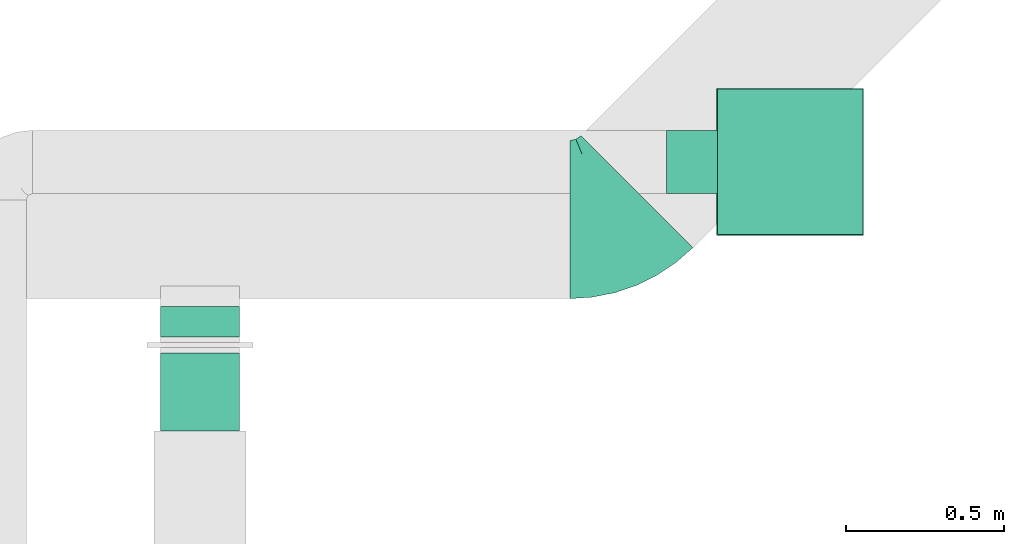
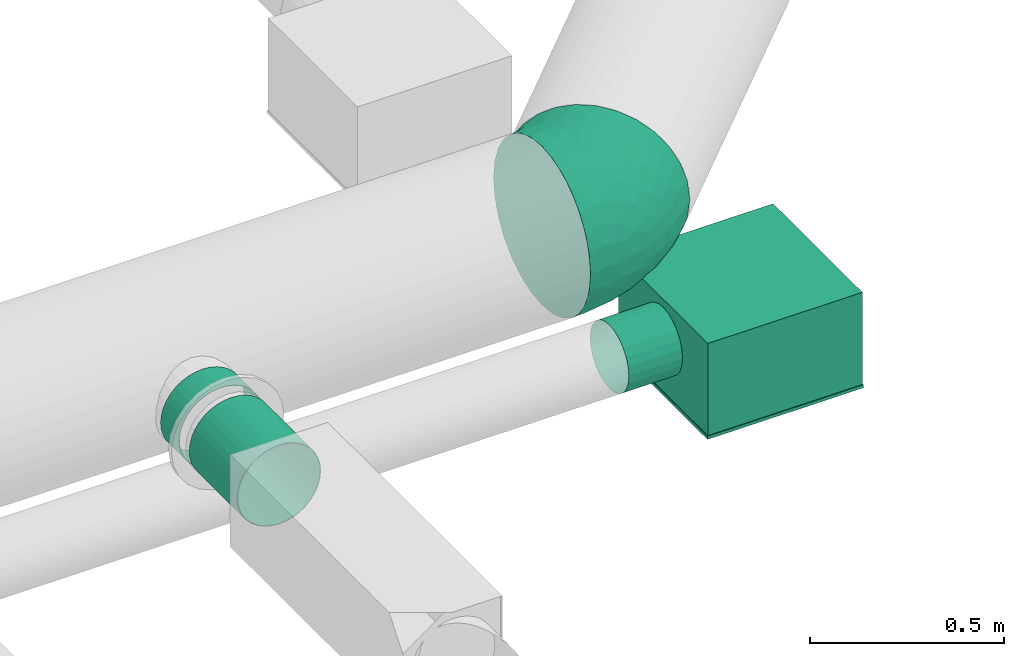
# One storey, part 4 of 31: 2 flow segments, 1 flow fitting, 1 flow terminal.
"""IFC2X3 building model written with IfcOpenShell, lengths in millimetres."""

from ifc_helpers import new_model, entity, si_unit, converted_unit, derived_unit, direction, frame, origin_with_axes, origin_2d_with_axis, place, context, subcontext, project, spatial, hollow_circle, extrude, open_shell, surface_model, source, transform, mapped, type_object, element, save


model = new_model("IFC2X3")

# Units and contexts
model_context = context("Model", 3, precision=0.01, world=frame((0.0, 4.29681676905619e-09, 0.0)), true_north=direction((4.01073788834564e-13, 1.0)))
plan_context = context("Plan", 3, precision=0.01, world=frame((0.0, 4.29681676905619e-09, 0.0)), true_north=direction((4.01073788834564e-13, 1.0)))
body_context = subcontext(model_context, "Body", "Model", "MODEL_VIEW")
ifc_project = project(units=[converted_unit("PLANEANGLEUNIT", "DEGREE", entity("IfcPositiveLengthMeasure", 0.0174532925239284), si_unit("PLANEANGLEUNIT", "RADIAN"), dimensions=[0, 0, 0, 0, 0, 0, 0]), si_unit("AREAUNIT", "SQUARE_METRE"), si_unit("LENGTHUNIT", "METRE", prefix="MILLI"), si_unit("MASSUNIT", "GRAM", prefix="KILO"), si_unit("POWERUNIT", "WATT"), si_unit("PRESSUREUNIT", "PASCAL", prefix="KILO"), si_unit("FORCEUNIT", "NEWTON", prefix="KILO"), si_unit("ELECTRICVOLTAGEUNIT", "VOLT"), si_unit("ELECTRICCURRENTUNIT", "AMPERE"), si_unit("THERMODYNAMICTEMPERATUREUNIT", "DEGREE_CELSIUS"), si_unit("TIMEUNIT", "SECOND"), si_unit("VOLUMEUNIT", "CUBIC_METRE"), derived_unit("LINEARVELOCITYUNIT", [(si_unit("LENGTHUNIT", "METRE"), 1), (si_unit("TIMEUNIT", "SECOND"), -1)]), derived_unit("VOLUMETRICFLOWRATEUNIT", [(si_unit("VOLUMEUNIT", "CUBIC_METRE"), 1), (si_unit("TIMEUNIT", "SECOND"), -1)]), derived_unit("THERMALTRANSMITTANCEUNIT", [(si_unit("POWERUNIT", "WATT"), 1), (si_unit("THERMODYNAMICTEMPERATUREUNIT", "KELVIN"), -1), (si_unit("AREAUNIT", "SQUARE_METRE"), -1)]), derived_unit("SOUNDPRESSUREUNIT", [(si_unit("PRESSUREUNIT", "PASCAL"), 1)])], contexts=[model_context, plan_context])

# Site, building, storey
site_placement = place(None, frame((0.0, -4.29681676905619e-09, 0.0), z_axis=(0.0, 0.0, 1.0), x_axis=(1.0, 0.0, 0.0)))
site = spatial("IfcSite", under=ifc_project, at=site_placement, CompositionType="ELEMENT")
building_placement = place(site_placement, frame((0.0, 4.29681676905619e-09, 0.0), z_axis=(0.0, 0.0, 1.0), x_axis=(1.0, 0.0, 0.0)))
building = spatial("IfcBuilding", under=site, at=building_placement, Name="mc-building", CompositionType="ELEMENT")
storey_placement = place(building_placement, frame((0.0, 0.0, 210900.0), z_axis=(0.0, 0.0, 1.0), x_axis=(1.0, 0.0, 0.0)))
storey = spatial("IfcBuildingStorey", under=building, at=storey_placement, Name="Nivå F", CompositionType="ELEMENT", Elevation=210900.0)

# Flow fitting
duct_fitting_type = type_object("IfcDuctFittingType", Name="magicirc_elbow_short_001", PredefinedType="BEND")
shared_shape_1 = source(origin_with_axes(), body_context, "Body", "SurfaceModel", [
    surface_model("IfcShellBasedSurfaceModel", [(-124.26407, 0.0, -250.0), (-124.26407, -108.47093, -225.24221), (-124.26407, 55.63023, -243.73198), (-124.26407, 108.47093, -225.24221), (-124.26407, 155.87244, -195.45787), (-124.26407, 195.45787, -155.87244), (-124.26407, 243.73198, -55.63023), (-124.26407, 225.24221, -108.47093), (-124.26407, -250.0, 0.0), (-124.26407, -243.73198, 55.63023), (-124.26407, -155.87244, -195.45787), (-124.26407, -55.63023, -243.73198), (-124.26407, -225.24221, -108.47093), (-124.26407, -195.45787, -155.87244), (-124.26407, -243.73198, -55.63023), (-124.26407, 225.24221, 108.47093), (-124.26407, 243.73198, 55.63023), (-124.26407, 250.0, 0.0), (-124.26407, 195.45787, 155.87244), (-124.26407, 155.87244, 195.45787), (-124.26407, -195.45787, 155.87244), (-124.26407, 108.47093, 225.24221), (-124.26407, 55.63023, 243.73198), (-124.26407, 0.0, 250.0), (-124.26407, -225.24221, 108.47093), (-124.26407, -108.47093, 225.24221), (-124.26407, -55.63023, 243.73198), (-124.26407, -155.87244, 195.45787), (48.53145, 127.20448, -243.73198), (127.20448, 48.53145, -243.73198), (87.86797, 87.86797, -250.0), (-50.34162, 226.07755, -155.87244), (11.16743, 164.5685, -225.24221), (-71.40233, 247.13826, -108.47093), (-84.47657, 260.2125, -55.63023), (-22.3505, 198.08644, -195.45787), (-50.34162, 226.07755, 155.87244), (247.13826, -71.40233, -108.47093), (198.08644, -22.3505, -195.45787), (164.5685, 11.16743, -225.24221), (226.07755, -50.34162, -155.87244), (264.64466, -88.90873, 0.0), (260.2125, -84.47657, -55.63023), (-22.3505, 198.08644, 195.45787), (-71.40233, 247.13826, 108.47093), (-84.47657, 260.2125, 55.63023), (11.16743, 164.5685, 225.24221), (48.53145, 127.20448, 243.73198), (87.86797, 87.86797, 250.0), (247.13826, -71.40233, 108.47093), (164.5685, 11.16743, 225.24221), (226.07755, -50.34162, 155.87244), (260.2125, -84.47657, 55.63023), (127.20448, 48.53145, 243.73198), (198.08644, -22.3505, 195.45787), (-88.90873, 264.64466, 0.0), (-90.45276, 124.02841, 218.87221), (-91.29459, 169.55488, 187.41752), (-98.68552, -248.32349, 0.0), (-69.42755, -238.38074, 65.87002), (153.34237, -48.71188, 203.14038), (-52.47466, -245.29468, 0.0), (-76.6666, -216.92271, 120.37881), (-22.89006, -216.92012, 105.24681), (217.65332, -119.46794, 65.87002), (180.64533, -156.32916, 0.0), (210.55472, -136.34434, 0.0), (-60.85928, -185.74402, 162.63886), (-73.98493, -142.87393, 203.14038), (-83.39213, 71.51366, 240.60628), (-67.30817, 13.9977, 249.85946), (73.43929, -100.41393, 202.53266), (13.85174, -54.30021, 236.76331), (26.85313, -105.62493, 211.77383), (-79.75907, -93.02021, 231.02734), (18.08641, -231.25921, 0.0), (31.47339, -218.76937, 64.10343), (-12.38539, -232.71705, 52.90321), (-50.05253, 120.83747, 226.38), (-55.33839, 184.44843, 187.41754), (8.39934, 109.53494, 240.60626), (118.79401, -188.00815, 48.81791), (86.21182, -208.13373, 0.0), (118.47387, -192.22386, 0.0), (-76.90491, -39.94821, 246.23375), (174.37486, -88.30686, 162.63886), (82.62762, 26.13229, 246.23375), (37.69616, 57.49191, 249.85946), (-97.69053, 235.8458, 96.65448), (-103.71583, 250.39217, 42.8242), (-105.12989, 253.80602, 0.0), (-23.74157, 151.66109, 218.87221), (-31.90323, -27.98993, 246.65716), (-39.57952, 42.84314, 248.28201), (-86.07174, 207.79558, 149.73476), (36.6163, -190.48641, 125.53417), (57.55935, -141.01975, 176.52244), (-6.93499, -157.46464, 181.17025), (168.1542, -159.36852, 51.94573), (169.57139, -137.19997, 105.24681), (207.59899, -99.17604, 120.37881), (42.35083, 2.7671, 246.65716), (115.55917, -106.89858, 181.12833), (245.37243, -105.81003, 0.0), (-17.19413, -238.27693, 0.0), (-6.59652, 63.81406, 247.37605), (-12.71298, -191.00061, 145.19814), (121.99205, -9.63542, 230.99042), (137.83324, -132.71637, 141.78754), (105.44893, -165.89734, 119.75665), (137.26371, -165.70422, 87.69769), (-27.37301, -98.77366, 224.31491), (68.664, -168.11276, 141.19415), (-4.4639, 10.77677, 249.65902), (88.81264, -50.91073, 224.2359), (-38.98412, 82.5717, 241.00831), (150.73593, -176.31397, 0.0), (75.56208, -197.19449, 82.92058), (67.46947, -211.94417, 40.66553), (52.14911, -219.69647, 0.0), (-83.39213, 71.51366, -240.60628), (-67.30817, 13.9977, -249.85946), (174.37486, -88.30686, -162.63886), (-76.90491, -39.94821, -246.23375), (-12.71298, -191.00061, -145.19814), (-60.85928, -185.74402, -162.63886), (-6.93499, -157.46464, -181.17025), (-22.89006, -216.92012, -105.24681), (-97.69053, 235.8458, -96.65448), (-86.07174, 207.79558, -149.73476), (-73.98493, -142.87393, -203.14038), (153.34237, -48.71188, -203.14038), (115.55917, -106.89858, -181.12833), (88.81264, -50.91073, -224.2359), (-31.90323, -27.98993, -246.65716), (-4.4639, 10.77677, -249.65902), (28.42363, -48.05229, -236.8304), (-91.29459, 169.55488, -187.41752), (-103.71583, 250.39217, -42.8242), (-55.33839, 184.44843, -187.41754), (-40.45894, 49.78777, -247.37605), (-90.45276, 124.02841, -218.87221), (-69.42755, -238.38074, -65.87002), (-76.6666, -216.92271, -120.37881), (-50.05253, 120.83747, -226.38), (207.59899, -99.17604, -120.37881), (217.65332, -119.46794, -65.87002), (169.57139, -137.19997, -105.24681), (37.69616, 57.49191, -249.85946), (82.62762, 26.13229, -246.23375), (42.35083, 2.7671, -246.65716), (-20.90065, -234.14123, -54.21618), (31.47339, -218.76937, -64.10343), (-23.74157, 151.66109, -218.87221), (36.6163, -190.48641, -125.53417), (143.87468, -126.12906, -145.25502), (-79.75907, -93.02021, -231.02734), (-27.37301, -98.77366, -224.31491), (8.39934, 109.53494, -240.60626), (118.79401, -188.00815, -48.81791), (168.1542, -159.36852, -51.94573), (121.99205, -9.63542, -230.99042), (-2.30776, 58.28161, -248.28201), (75.56208, -197.19449, -82.92058), (10.81175, -84.87887, -225.51932), (55.02329, -94.04809, -211.73768), (17.87079, -122.84009, -202.87383), (-30.8211, 85.95292, -241.00831), (57.55935, -141.01975, -176.52244), (68.664, -168.11276, -141.19415), (105.44893, -165.89734, -119.75665), (137.26371, -165.70422, -87.69769), (67.46947, -211.94417, -40.66553)], [open_shell([[[0, 1, 2]], [[3, 2, 4]], [[5, 6, 7]], [[2, 6, 5]], [[5, 4, 2]], [[2, 8, 9]], [[1, 10, 2]], [[0, 11, 1]], [[12, 10, 13]], [[12, 14, 8]], [[12, 2, 10]], [[12, 8, 2]], [[9, 6, 2]], [[15, 16, 17]], [[18, 15, 17]], [[9, 19, 18]], [[20, 21, 19]], [[17, 9, 18]], [[22, 21, 23]], [[24, 20, 9]], [[20, 19, 9]], [[25, 26, 23]], [[25, 20, 27]], [[23, 20, 25]], [[20, 23, 21]], [[6, 9, 17]], [[28, 29, 30]], [[31, 28, 32]], [[33, 34, 31]], [[31, 34, 28]], [[32, 35, 31]], [[36, 37, 28]], [[29, 38, 39]], [[29, 28, 38]], [[40, 38, 37]], [[41, 42, 37]], [[37, 38, 28]], [[37, 43, 41]], [[44, 28, 34]], [[34, 45, 44]], [[28, 44, 36]], [[43, 46, 41]], [[41, 46, 47]], [[36, 43, 37]], [[47, 48, 41]], [[49, 50, 51]], [[52, 41, 49]], [[48, 53, 50]], [[54, 51, 50]], [[50, 49, 48]], [[48, 49, 41]], [[45, 34, 55]], [[56, 57, 19]], [[58, 59, 9]], [[60, 54, 50]], [[9, 59, 24]], [[61, 59, 58]], [[62, 59, 63]], [[20, 24, 62]], [[64, 65, 66]], [[67, 20, 62]], [[27, 67, 68]], [[69, 22, 70]], [[71, 72, 73]], [[26, 25, 74]], [[75, 76, 77]], [[78, 79, 57]], [[47, 46, 80]], [[81, 82, 83]], [[23, 70, 22]], [[23, 84, 70]], [[21, 56, 19]], [[69, 21, 22]], [[85, 51, 54]], [[86, 48, 87]], [[16, 15, 88]], [[89, 17, 16]], [[90, 17, 89]], [[78, 91, 79]], [[70, 92, 93]], [[15, 18, 94]], [[18, 19, 57]], [[57, 94, 18]], [[63, 76, 95]], [[96, 97, 95]], [[91, 80, 46]], [[23, 26, 84]], [[27, 68, 25]], [[85, 54, 60]], [[98, 64, 99]], [[88, 89, 16]], [[86, 53, 48]], [[94, 57, 79]], [[64, 52, 49]], [[100, 85, 99]], [[49, 51, 100]], [[87, 101, 86]], [[70, 84, 92]], [[85, 60, 102]], [[64, 103, 52]], [[61, 104, 77]], [[87, 80, 105]], [[36, 44, 94]], [[94, 44, 88]], [[100, 64, 49]], [[88, 45, 89]], [[106, 97, 67]], [[90, 89, 55]], [[50, 53, 107]], [[47, 87, 48]], [[36, 94, 79]], [[36, 79, 43]], [[108, 109, 110]], [[68, 97, 111]], [[112, 96, 95]], [[43, 91, 46]], [[87, 47, 80]], [[101, 113, 72]], [[101, 87, 113]], [[20, 67, 27]], [[107, 86, 114]], [[87, 105, 113]], [[74, 84, 26]], [[111, 72, 92]], [[93, 113, 105]], [[69, 115, 56]], [[97, 68, 67]], [[74, 68, 111]], [[106, 67, 63]], [[97, 96, 73]], [[64, 98, 65]], [[98, 81, 116]], [[95, 76, 117]], [[108, 85, 102]], [[107, 60, 50]], [[73, 96, 71]], [[114, 102, 60]], [[102, 96, 112]], [[94, 88, 15]], [[44, 45, 88]], [[59, 62, 24]], [[67, 62, 63]], [[85, 100, 51]], [[64, 100, 99]], [[79, 91, 43]], [[80, 91, 78]], [[69, 56, 21]], [[57, 56, 78]], [[86, 107, 53]], [[60, 107, 114]], [[68, 74, 25]], [[84, 74, 111]], [[78, 115, 80]], [[115, 69, 93]], [[115, 93, 105]], [[69, 70, 93]], [[92, 113, 93]], [[114, 86, 101]], [[73, 72, 111]], [[114, 101, 72]], [[111, 92, 84]], [[72, 113, 92]], [[118, 119, 82]], [[81, 117, 118]], [[80, 115, 105]], [[115, 78, 56]], [[77, 76, 63]], [[77, 59, 61]], [[116, 65, 98]], [[81, 110, 109]], [[110, 98, 99]], [[109, 112, 117]], [[119, 118, 76]], [[81, 109, 117]], [[97, 73, 111]], [[96, 102, 71]], [[102, 114, 71]], [[72, 71, 114]], [[9, 8, 58]], [[103, 64, 66]], [[103, 41, 52]], [[55, 89, 45]], [[63, 95, 106]], [[95, 97, 106]], [[117, 112, 95]], [[102, 112, 109]], [[85, 108, 99]], [[102, 109, 108]], [[76, 75, 119]], [[81, 118, 82]], [[76, 118, 117]], [[59, 77, 63]], [[75, 77, 104]], [[98, 110, 81]], [[116, 81, 83]], [[108, 110, 99]], [[120, 121, 2]], [[38, 40, 122]], [[11, 0, 123]], [[124, 125, 126]], [[2, 121, 0]], [[125, 124, 127]], [[7, 128, 129]], [[125, 130, 126]], [[131, 132, 133]], [[134, 135, 136]], [[137, 4, 5]], [[129, 137, 5]], [[138, 128, 6]], [[31, 35, 139]], [[121, 120, 140]], [[4, 141, 3]], [[12, 142, 14]], [[143, 142, 12]], [[142, 58, 14]], [[144, 137, 139]], [[12, 13, 143]], [[145, 146, 147]], [[10, 130, 125]], [[148, 149, 150]], [[151, 61, 142]], [[42, 41, 103]], [[75, 151, 152]], [[153, 139, 35]], [[127, 154, 152]], [[143, 125, 127]], [[30, 29, 149]], [[155, 132, 122]], [[17, 90, 138]], [[156, 123, 157]], [[55, 34, 138]], [[129, 139, 137]], [[7, 6, 128]], [[130, 10, 1]], [[146, 66, 65]], [[129, 5, 7]], [[35, 32, 153]], [[123, 0, 121]], [[156, 1, 11]], [[30, 149, 148]], [[148, 28, 30]], [[158, 32, 28]], [[116, 159, 160]], [[129, 31, 139]], [[33, 31, 129]], [[161, 29, 39]], [[122, 40, 145]], [[125, 13, 10]], [[148, 150, 162]], [[65, 116, 160]], [[152, 154, 163]], [[131, 38, 122]], [[146, 37, 42]], [[164, 165, 166]], [[146, 103, 66]], [[38, 131, 39]], [[144, 141, 137]], [[103, 146, 42]], [[121, 134, 123]], [[37, 145, 40]], [[158, 28, 148]], [[2, 3, 120]], [[121, 140, 135]], [[6, 17, 138]], [[134, 121, 135]], [[141, 120, 3]], [[161, 149, 29]], [[133, 136, 150]], [[162, 135, 140]], [[158, 167, 153]], [[156, 130, 1]], [[165, 168, 166]], [[157, 126, 130]], [[126, 168, 154]], [[169, 154, 168]], [[104, 151, 75]], [[169, 132, 170]], [[159, 171, 160]], [[132, 131, 122]], [[161, 131, 133]], [[122, 147, 155]], [[132, 168, 165]], [[34, 33, 128]], [[129, 128, 33]], [[125, 143, 13]], [[142, 143, 127]], [[146, 145, 37]], [[122, 145, 147]], [[137, 141, 4]], [[120, 141, 144]], [[158, 153, 32]], [[139, 153, 144]], [[123, 156, 11]], [[130, 156, 157]], [[131, 161, 39]], [[149, 161, 133]], [[144, 167, 120]], [[167, 158, 162]], [[167, 162, 140]], [[158, 148, 162]], [[150, 135, 162]], [[157, 123, 134]], [[165, 136, 133]], [[134, 136, 164]], [[133, 150, 149]], [[136, 135, 150]], [[154, 169, 163]], [[172, 152, 163]], [[120, 167, 140]], [[167, 144, 153]], [[127, 151, 142]], [[159, 116, 83]], [[65, 160, 146]], [[146, 160, 147]], [[152, 172, 119]], [[171, 159, 170]], [[132, 165, 133]], [[168, 126, 166]], [[126, 157, 166]], [[164, 166, 157]], [[170, 159, 163]], [[172, 159, 82]], [[134, 164, 157]], [[165, 164, 136]], [[58, 142, 61]], [[58, 8, 14]], [[55, 138, 90]], [[128, 138, 34]], [[126, 154, 124]], [[154, 127, 124]], [[132, 169, 168]], [[163, 169, 170]], [[171, 155, 147]], [[170, 132, 155]], [[119, 172, 82]], [[119, 75, 152]], [[159, 172, 163]], [[152, 151, 127]], [[61, 151, 104]], [[155, 171, 170]], [[82, 159, 83]], [[160, 171, 147]]])]),
])
flow_fitting_placement = place(storey_placement, frame((716625.69609, 438431.78045, 3950.0), z_axis=(0.0, 0.0, 1.0), x_axis=(1.0, 0.0, 0.0)))
element("IfcFlowFitting", 1, at=flow_fitting_placement, inside=storey, type_object=duct_fitting_type, Name="magicirc_elbow_short_001", context=body_context, shape_type="MappedRepresentation", body=[
    mapped(shared_shape_1, transform((0.0, 0.0, 0.0), scale=1.0)),
])

# Flow segments
duct_segment_type = type_object("IfcDuctSegmentType", Name="KK001T - Spiro kanaler, Forsinket stål", PredefinedType="RIGIDSEGMENT")
shared_shape_2 = source(origin_with_axes(), body_context, "Body", "SweptSolid", [
    extrude(hollow_circle(Radius=125.0, WallThickness=2.0, at=origin_2d_with_axis()), frame((0.0, 0.0, 0.0), z_axis=(1.0, 0.0, 0.0), x_axis=(0.0, 1.0, 0.0)), (0.0, 0.0, 1.0), 95.5),
])
flow_segment_1_placement = place(storey_placement, frame((715332.69489, 438156.78045, 3950.0), z_axis=(0.0, 0.0, 1.0), x_axis=(0.0, -1.0, 0.0)))
element("IfcFlowSegment", 2, at=flow_segment_1_placement, inside=storey, type_object=duct_segment_type, Name="KK001T - Spiro kanaler, Forsinket stål", context=body_context, shape_type="MappedRepresentation", body=[
    mapped(shared_shape_2, transform((0.0, 0.0, 0.0), scale=1.0)),
])
shared_shape_3 = source(origin_with_axes(), body_context, "Body", "SweptSolid", [
    extrude(hollow_circle(Radius=125.0, WallThickness=2.0, at=origin_2d_with_axis()), frame((0.0, 0.0, 0.0), z_axis=(1.0, 0.0, 0.0), x_axis=(0.0, 1.0, 0.0)), (0.0, 0.0, 1.0), 246.1),
])
flow_segment_2_placement = place(storey_placement, frame((715332.69489, 438009.23478, 3950.0), z_axis=(0.0, 0.0, 1.0), x_axis=(0.0, -1.0, 0.0)))
element("IfcFlowSegment", 3, at=flow_segment_2_placement, inside=storey, type_object=duct_segment_type, Name="KK001T - Spiro kanaler, Forsinket stål", context=body_context, shape_type="MappedRepresentation", body=[
    mapped(shared_shape_3, transform((0.0, 0.0, 0.0), scale=1.0)),
])

# Flow terminal
air_terminal_type = type_object("IfcAirTerminalType", Name="NS19-H-S-2-200 - 4-way", PredefinedType="NOTDEFINED")
shared_shape_4 = source(origin_with_axes(), body_context, "Body", "SurfaceModel", [
    surface_model("IfcShellBasedSurfaceModel", [(-231.99999, 231.99999, 0.0), (-231.99999, -231.99999, 0.0), (231.99999, -231.99999, 0.0), (231.99999, 231.99999, 0.0), (231.99999, 231.99999, -10.0), (231.99999, -231.99999, -10.0), (-231.99999, -231.99999, -10.0), (-231.99999, 231.99999, -10.0), (-230.0, 230.0, 289.99999), (-230.0, -230.0, 289.99999), (230.0, -230.0, 289.99999), (230.0, 230.0, 289.99999), (230.0, 230.0, 0.0), (230.0, -230.0, 0.0), (-230.0, -230.0, 0.0), (-230.0, 230.0, 0.0), (-230.0, 50.0, 78.39746), (-230.0, 70.71068, 94.28932), (-230.0, 49.9, 78.57067), (-230.0, 25.83014, 68.6006), (-230.0, 0.0, 65.2), (-230.0, 25.8819, 68.40742), (-230.0, 0.0, 65.0), (-230.0, 70.56926, 94.43075), (-230.0, 96.59259, 139.1181), (-230.0, 99.8, 164.99999), (-230.0, 96.39939, 139.16986), (-230.0, 100.0, 164.99999), (-230.0, 86.60254, 115.0), (-230.0, 86.42934, 115.1), (-230.0, -25.83014, 68.6006), (-230.0, -25.8819, 68.40742), (-230.0, -49.9, 78.57067), (-230.0, -70.71068, 94.28932), (-230.0, -50.0, 78.39746), (-230.0, -70.56926, 94.43075), (-230.0, -86.42934, 115.1), (-230.0, -86.60254, 115.0), (-230.0, -96.39939, 139.16986), (-230.0, -96.59259, 139.1181), (-230.0, -99.8, 164.99999), (-230.0, -100.0, 164.99999), (-230.0, 96.59259, 190.8819), (-230.0, 96.39939, 190.83014), (-230.0, 86.42934, 214.9), (-230.0, 86.60254, 214.99999), (-230.0, 70.56926, 235.56925), (-230.0, 70.71068, 235.71069), (-230.0, 50.0, 251.60254), (-230.0, 49.9, 251.42933), (-230.0, 25.83014, 261.3994), (-230.0, 25.8819, 261.59259), (-230.0, 0.0, 264.80001), (-230.0, 0.0, 264.99999), (-230.0, -86.60254, 214.99999), (-230.0, -86.42934, 214.9), (-230.0, -70.71068, 235.71069), (-230.0, -70.56926, 235.56925), (-230.0, -96.59259, 190.8819), (-230.0, -96.39939, 190.83014), (-230.0, -25.83014, 261.3994), (-230.0, -25.8819, 261.59259), (-230.0, -49.9, 251.42933), (-230.0, -50.0, 251.60254), (-390.0, 50.0, 251.60254), (-390.0, 70.71068, 235.71069), (-390.0, 49.9, 251.42933), (-390.0, 25.83014, 261.3994), (-390.0, 0.0, 264.80001), (-390.0, 25.8819, 261.59259), (-390.0, 0.0, 264.99999), (-390.0, 70.56926, 235.56925), (-390.0, 96.59259, 190.8819), (-390.0, 99.8, 164.99999), (-390.0, 96.39939, 190.83014), (-390.0, 100.0, 164.99999), (-390.0, 86.60254, 214.99999), (-390.0, 86.42934, 214.9), (-390.0, -25.83014, 261.3994), (-390.0, -25.8819, 261.59259), (-390.0, -49.9, 251.42933), (-390.0, -70.71068, 235.71069), (-390.0, -50.0, 251.60254), (-390.0, -70.56926, 235.56925), (-390.0, -86.42934, 214.9), (-390.0, -86.60254, 214.99999), (-390.0, -96.39939, 190.83014), (-390.0, -96.59259, 190.8819), (-390.0, -99.8, 164.99999), (-390.0, -100.0, 164.99999), (-390.0, 96.59259, 139.1181), (-390.0, 96.39939, 139.16986), (-390.0, 86.42934, 115.1), (-390.0, 86.60254, 115.0), (-390.0, 70.56926, 94.43075), (-390.0, 70.71068, 94.28932), (-390.0, 50.0, 78.39746), (-390.0, 49.9, 78.57067), (-390.0, 25.83014, 68.6006), (-390.0, 25.8819, 68.40742), (-390.0, 0.0, 65.2), (-390.0, 0.0, 65.0), (-390.0, -86.60254, 115.0), (-390.0, -86.42934, 115.1), (-390.0, -70.71068, 94.28932), (-390.0, -70.56926, 94.43075), (-390.0, -96.59259, 139.1181), (-390.0, -96.39939, 139.16986), (-390.0, -25.83014, 68.6006), (-390.0, -25.8819, 68.40742), (-390.0, -49.9, 78.57067), (-390.0, -50.0, 78.39746)], [open_shell([[[0, 1, 2]], [[2, 3, 0]], [[4, 5, 6]], [[6, 7, 4]], [[2, 1, 6]], [[6, 5, 2]], [[3, 2, 5]], [[5, 4, 3]], [[0, 3, 4]], [[4, 7, 0]], [[1, 0, 7]], [[7, 6, 1]], [[8, 9, 10]], [[10, 11, 8]], [[12, 13, 14]], [[14, 15, 12]], [[10, 9, 13]], [[14, 13, 9]], [[11, 10, 12]], [[13, 12, 10]], [[8, 11, 15]], [[12, 15, 11]], [[9, 8, 14]], [[15, 14, 8]], [[16, 17, 18]], [[16, 18, 19]], [[20, 21, 19]], [[21, 20, 22]], [[19, 21, 16]], [[18, 17, 23]], [[24, 25, 26]], [[25, 24, 27]], [[24, 26, 28]], [[23, 28, 29]], [[28, 23, 17]], [[29, 28, 26]], [[22, 30, 31]], [[31, 30, 32]], [[33, 34, 35]], [[32, 34, 31]], [[32, 35, 34]], [[22, 20, 30]], [[36, 37, 33]], [[37, 36, 38]], [[36, 33, 35]], [[39, 38, 40]], [[38, 39, 37]], [[39, 40, 41]], [[27, 42, 43]], [[43, 42, 44]], [[44, 45, 46]], [[45, 44, 42]], [[46, 45, 47]], [[47, 48, 49]], [[49, 48, 50]], [[50, 51, 52]], [[51, 50, 48]], [[52, 51, 53]], [[49, 46, 47]], [[54, 55, 56]], [[56, 55, 57]], [[55, 54, 58]], [[41, 59, 58]], [[58, 59, 55]], [[41, 40, 59]], [[60, 53, 61]], [[60, 61, 62]], [[57, 63, 56]], [[57, 62, 63]], [[63, 62, 61]], [[52, 53, 60]], [[43, 25, 27]], [[64, 65, 66]], [[64, 66, 67]], [[68, 69, 67]], [[69, 68, 70]], [[67, 69, 64]], [[66, 65, 71]], [[72, 73, 74]], [[73, 72, 75]], [[72, 74, 76]], [[71, 76, 77]], [[76, 71, 65]], [[77, 76, 74]], [[70, 78, 79]], [[79, 78, 80]], [[81, 82, 83]], [[80, 82, 79]], [[80, 83, 82]], [[70, 68, 78]], [[84, 85, 81]], [[85, 84, 86]], [[84, 81, 83]], [[87, 86, 88]], [[86, 87, 85]], [[87, 88, 89]], [[75, 90, 91]], [[91, 90, 92]], [[92, 93, 94]], [[93, 92, 90]], [[94, 93, 95]], [[95, 96, 97]], [[97, 96, 98]], [[98, 99, 100]], [[99, 98, 96]], [[100, 99, 101]], [[97, 94, 95]], [[102, 103, 104]], [[104, 103, 105]], [[103, 102, 106]], [[89, 107, 106]], [[106, 107, 103]], [[89, 88, 107]], [[108, 101, 109]], [[108, 109, 110]], [[105, 111, 104]], [[105, 110, 111]], [[111, 110, 109]], [[100, 101, 108]], [[91, 73, 75]], [[39, 106, 102]], [[104, 37, 102]], [[34, 111, 109]], [[104, 111, 33]], [[31, 109, 101]], [[106, 41, 89]], [[106, 39, 41]], [[102, 37, 39]], [[104, 33, 37]], [[34, 33, 111]], [[109, 31, 34]], [[101, 22, 31]], [[21, 99, 96]], [[95, 16, 96]], [[28, 93, 90]], [[95, 93, 17]], [[24, 90, 75]], [[99, 21, 22]], [[96, 16, 21]], [[95, 17, 16]], [[93, 28, 17]], [[24, 28, 90]], [[75, 27, 24]], [[99, 22, 101]], [[75, 72, 42]], [[48, 64, 69]], [[64, 47, 65]], [[51, 69, 70]], [[72, 45, 42]], [[42, 27, 75]], [[76, 47, 45]], [[76, 65, 47]], [[47, 64, 48]], [[69, 51, 48]], [[76, 45, 72]], [[70, 53, 51]], [[61, 79, 82]], [[81, 63, 82]], [[54, 85, 87]], [[81, 85, 56]], [[58, 87, 89]], [[79, 61, 53]], [[82, 63, 61]], [[81, 56, 63]], [[85, 54, 56]], [[58, 54, 87]], [[89, 41, 58]], [[79, 53, 70]], [[103, 107, 38]], [[103, 36, 105]], [[108, 110, 32]], [[35, 110, 105]], [[100, 108, 30]], [[88, 40, 107]], [[40, 38, 107]], [[38, 36, 103]], [[36, 35, 105]], [[110, 35, 32]], [[32, 30, 108]], [[30, 20, 100]], [[97, 98, 19]], [[97, 18, 94]], [[91, 92, 29]], [[23, 92, 94]], [[73, 91, 26]], [[20, 19, 98]], [[19, 18, 97]], [[18, 23, 94]], [[23, 29, 92]], [[91, 29, 26]], [[26, 25, 73]], [[100, 20, 98]], [[43, 74, 73]], [[67, 66, 49]], [[71, 46, 66]], [[68, 67, 50]], [[43, 44, 74]], [[73, 25, 43]], [[44, 46, 77]], [[46, 71, 77]], [[49, 66, 46]], [[49, 50, 67]], [[74, 44, 77]], [[50, 52, 68]], [[80, 78, 60]], [[80, 62, 83]], [[86, 84, 55]], [[57, 84, 83]], [[88, 86, 59]], [[52, 60, 78]], [[60, 62, 80]], [[62, 57, 83]], [[57, 55, 84]], [[86, 55, 59]], [[59, 40, 88]], [[68, 52, 78]]])]),
])
flow_terminal_placement = place(storey_placement, frame((717197.4114, 438614.03588, 3154.98813000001), z_axis=(0.0, 0.0, 1.0), x_axis=(1.0, 0.0, 0.0)))
element("IfcFlowTerminal", 4, at=flow_terminal_placement, inside=storey, type_object=air_terminal_type, Name="NS19-H-S-2-200 - 4-way", context=body_context, shape_type="MappedRepresentation", body=[
    mapped(shared_shape_4, transform((0.0, 0.0, 0.0), scale=1.0)),
])

save(model, "model.ifc")
